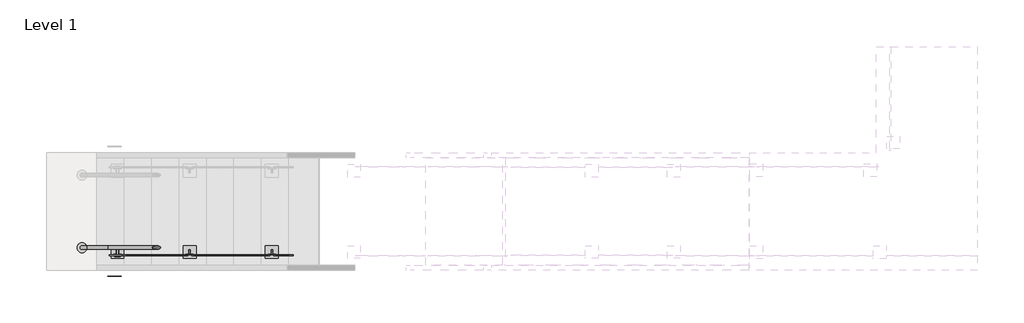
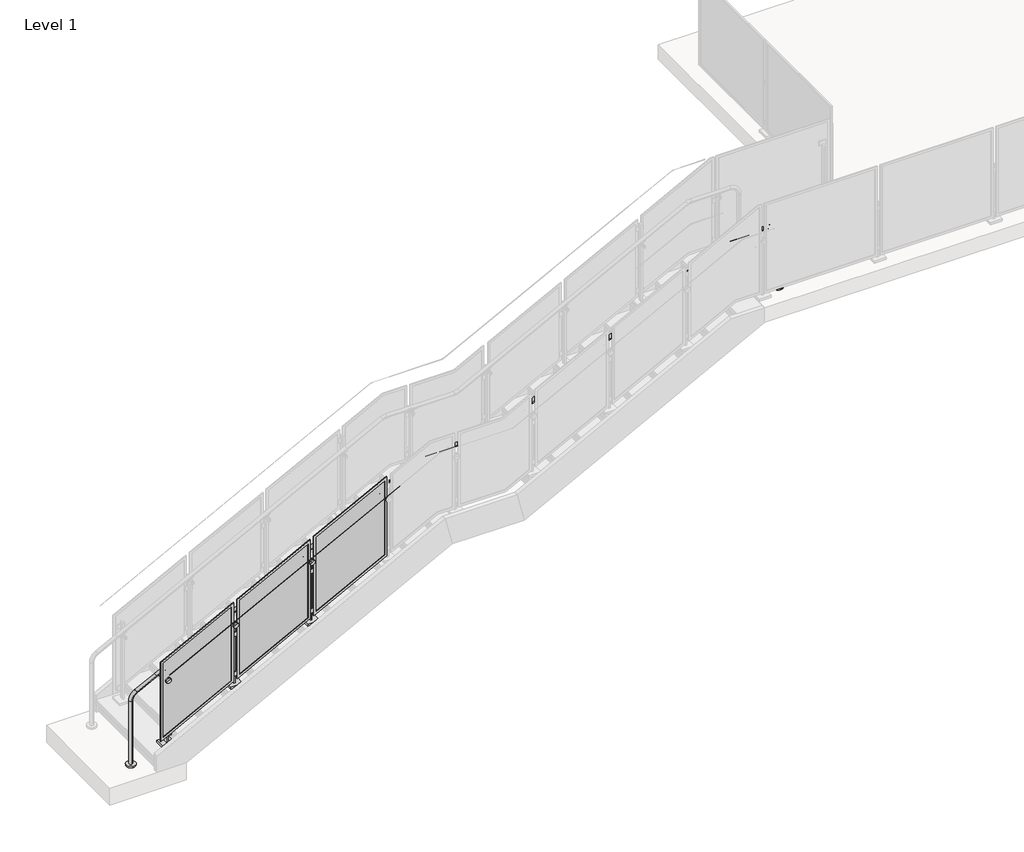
# One storey, part 10 of 28: 1 railing.
"""IFC4 building model written with IfcOpenShell, lengths in millimetres."""

from ifc_helpers import new_model, si_unit, point, frame, frame_2d, origin, place, context, project, spatial, polyline, circle_curve, ellipse_curve, trimmed, segment, composite_curve, outline, extrude, element, save
from ifc_brep_helpers import plane_surface, cylinder_surface, revolved_surface, advanced_brep

model = new_model("IFC4")

# Units and contexts
model_context = context("Model", 3, world=origin())
ifc_project = project(units=[si_unit("LENGTHUNIT", "METRE", prefix="MILLI")], contexts=[model_context])

# Site, building, storey
site = spatial("IfcSite", under=ifc_project)
building = spatial("IfcBuilding", under=site)
storey = spatial("IfcBuildingStorey", under=building, Name="Level 1", Elevation=0.0)

# Railing
placement = place(None, origin())
element("IfcRailing", 1, ObjectType="Metal-Panel-VIVA-STRUC-Slab-Top-Anchor-Stairs-Lower", at=placement, inside=storey, context=model_context, shape_type="SolidModel", body=[
    extrude(outline(composite_curve([segment(trimmed(circle_curve(frame_2d((-12073.0515794, -18372.2060387)), 50.8), [point((-12073.0515794, -18423.0060387))], [point((-12073.0515794, -18321.4060387))], False, "CARTESIAN"), True, "CONTINUOUS"), segment(trimmed(circle_curve(frame_2d((-12073.0515794, -18372.2060387)), 50.8), [point((-12073.0515794, -18321.4060387))], [point((-12073.0515794, -18423.0060387))], False, "CARTESIAN"), True, "CONTINUOUS")], self_intersect=False)), frame((0.0, 0.0, 3047.9164465), z_axis=(0.0, 0.0, 1.0), x_axis=(1.0, 0.0, 0.0)), (0.0, 0.0, 1.0), 19.05),
    extrude(outline(composite_curve([segment(trimmed(circle_curve(frame_2d((-19157.6813244, -18372.2060387)), 50.8), [point((-19157.6813244, -18321.4060387))], [point((-19157.6813244, -18423.0060387))], False, "CARTESIAN"), True, "CONTINUOUS"), segment(trimmed(circle_curve(frame_2d((-19157.6813244, -18372.2060387)), 50.8), [point((-19157.6813244, -18423.0060387))], [point((-19157.6813244, -18321.4060387))], False, "CARTESIAN"), True, "CONTINUOUS")], self_intersect=False)), frame((0.0, 0.0, -0.1113211), z_axis=(0.0, 0.0, 1.0), x_axis=(1.0, 0.0, 0.0)), (0.0, 0.0, 1.0), 19.05),
    advanced_brep(
    [(-19157.6813244, -18391.2560387, 18.9386789), (-19157.6813244, -18353.1560387, 18.9386789), (-19157.6813244, -18391.2560387, 743.6520958), (-19157.6813244, -18353.1560387, 743.6520958), (-19102.917891, -18353.1560387, 833.8124864), (-19102.917891, -18391.2560387, 833.8124864), (-18888.5494682, -18391.2560387, 945.172706), (-18888.5494682, -18353.1560387, 945.172706), (-16373.9494682, -18391.2560387, 2251.4584203), (-16373.9494682, -18353.1560387, 2251.4584203), (-15937.6556338, -18353.1560387, 2465.2134935), (-15937.6556338, -18391.2560387, 2465.2134935), (-15199.5082651, -18391.2560387, 2465.2134935), (-15199.5082651, -18353.1560387, 2465.2134935), (-15135.1079861, -18353.1560387, 2480.9429564), (-15135.1079861, -18391.2560387, 2480.9429564), (-12645.7274553, -18391.2560387, 3774.1276477), (-12645.7274553, -18353.1560387, 3774.1276477), (-15984.4922003, -18391.2560387, 2453.7738841), (-15984.4922003, -18353.1560387, 2453.7738841), (-12598.8908888, -18353.1560387, 3785.5672571), (-12598.8908888, -18391.2560387, 3785.5672571), (-12174.6515794, -18391.2560387, 3785.5672571), (-12174.6515794, -18353.1560387, 3785.5672571), (-12073.0515794, -18353.1560387, 3683.9672571), (-12073.0515794, -18391.2560387, 3683.9672571), (-12073.0515794, -18391.2560387, 3066.9664465), (-12073.0515794, -18353.1560387, 3066.9664465)],
    [
        (0, 1, circle_curve(frame((-19157.6813244, -18372.2060387, 18.9386789), z_axis=(0.0, 0.0, -1.0), x_axis=(0.0, 1.0, 0.0)), 19.05)),
        (1, 0, circle_curve(frame((-19157.6813244, -18372.2060387, 18.9386789), z_axis=(0.0, 0.0, -1.0), x_axis=(0.0, 1.0, 0.0)), 19.05)),
        (0, 2),
        (2, 3, circle_curve(frame((-19157.6813244, -18372.2060387, 743.6520958), z_axis=(0.0, 0.0, -1.0), x_axis=(0.0, 1.0, 0.0)), 19.05)),
        (3, 1),
        (3, 2, circle_curve(frame((-19157.6813244, -18372.2060387, 743.6520958), z_axis=(0.0, 0.0, -1.0), x_axis=(0.0, 1.0, 0.0)), 19.05)),
        (4, 3, circle_curve(frame((-19056.0813244, -18353.1560387, 743.6520958), z_axis=(0.0, -1.0, 0.0), x_axis=(-0.9999999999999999, 0.0, 0.0)), 101.6)),
        (2, 5, circle_curve(frame((-19056.0813244, -18391.2560387, 743.6520958), z_axis=(0.0, 1.0, 0.0), x_axis=(-0.9999999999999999, 0.0, 0.0)), 101.6)),
        (5, 4, circle_curve(frame((-19102.917891, -18372.2060387, 833.8124864), z_axis=(-0.8874054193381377, 0.0, -0.4609898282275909), x_axis=(0.0, 0.9999999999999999, 0.0)), 19.05)),
        (4, 5, circle_curve(frame((-19102.917891, -18372.2060387, 833.8124864), z_axis=(-0.8874054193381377, 0.0, -0.4609898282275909), x_axis=(0.0, 0.9999999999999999, 0.0)), 19.05)),
        (5, 6),
        (6, 7, circle_curve(frame((-18888.5494682, -18372.2060387, 945.172706), z_axis=(-0.8874054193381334, 0.0, -0.46098982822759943), x_axis=(0.0, 1.0, 0.0)), 19.05)),
        (7, 4),
        (7, 6, circle_curve(frame((-18888.5494682, -18372.2060387, 945.172706), z_axis=(-0.8874054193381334, 0.0, -0.46098982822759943), x_axis=(0.0, 1.0, 0.0)), 19.05)),
        (6, 8),
        (8, 9, circle_curve(frame((-16373.9494682, -18372.2060387, 2251.4584203), z_axis=(-0.8874054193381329, 0.0, -0.46098982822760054), x_axis=(0.0, 1.0, 0.0)), 19.05)),
        (9, 7),
        (9, 8, circle_curve(frame((-16373.9494682, -18372.2060387, 2251.4584203), z_axis=(-0.8874054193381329, 0.0, -0.46098982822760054), x_axis=(0.0, 1.0, 0.0)), 19.05)),
        (10, 11, circle_curve(frame((-15937.6556338, -18372.2060387, 2465.2134935), z_axis=(1.0, 0.0, 0.0), x_axis=(0.0, 1.0, 0.0)), 19.05)),
        (11, 12),
        (12, 13, circle_curve(frame((-15199.5082651, -18372.2060387, 2465.2134935), z_axis=(-1.0, 0.0, 0.0), x_axis=(0.0, 1.0, 0.0)), 19.05)),
        (13, 10),
        (11, 10, circle_curve(frame((-15937.6556338, -18372.2060387, 2465.2134935), z_axis=(1.0, 0.0, 0.0), x_axis=(0.0, 1.0, 0.0)), 19.05)),
        (13, 12, circle_curve(frame((-15199.5082651, -18372.2060387, 2465.2134935), z_axis=(-1.0, 0.0, 0.0), x_axis=(0.0, 1.0, 0.0)), 19.05)),
        (14, 15, circle_curve(frame((-15135.1079861, -18372.2060387, 2480.9429564), z_axis=(0.8874054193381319, 0.0, 0.4609898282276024), x_axis=(0.0, 1.0, 0.0)), 19.05)),
        (15, 16),
        (16, 17, circle_curve(frame((-12645.7274553, -18372.2060387, 3774.1276477), z_axis=(-0.8874054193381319, 0.0, -0.4609898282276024), x_axis=(0.0, 1.0, 0.0)), 19.05)),
        (17, 14),
        (15, 14, circle_curve(frame((-15135.1079861, -18372.2060387, 2480.9429564), z_axis=(0.8874054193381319, 0.0, 0.4609898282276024), x_axis=(0.0, 1.0, 0.0)), 19.05)),
        (17, 16, circle_curve(frame((-12645.7274553, -18372.2060387, 3774.1276477), z_axis=(-0.8874054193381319, 0.0, -0.4609898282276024), x_axis=(0.0, 1.0, 0.0)), 19.05)),
        (14, 13, circle_curve(frame((-15199.5082651, -18353.1560387, 2604.9134935), z_axis=(0.0, 1.0, 0.0), x_axis=(0.0, 0.0, -1.0)), 139.7)),
        (12, 15, circle_curve(frame((-15199.5082651, -18391.2560387, 2604.9134935), z_axis=(0.0, -1.0, 0.0), x_axis=(0.0, 0.0, -1.0)), 139.7)),
        (8, 18),
        (18, 19, circle_curve(frame((-15984.4922003, -18372.2060387, 2453.7738841), z_axis=(-0.8874054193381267, 0.0, -0.4609898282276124), x_axis=(0.0, 1.0, 0.0)), 19.05)),
        (19, 9),
        (19, 18, circle_curve(frame((-15984.4922003, -18372.2060387, 2453.7738841), z_axis=(-0.8874054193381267, 0.0, -0.4609898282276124), x_axis=(0.0, 1.0, 0.0)), 19.05)),
        (10, 19, circle_curve(frame((-15937.6556338, -18353.1560387, 2363.6134935), z_axis=(0.0, -1.0, 0.0), x_axis=(-0.4609898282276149, 0.0, 0.8874054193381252)), 101.6)),
        (18, 11, circle_curve(frame((-15937.6556338, -18391.2560387, 2363.6134935), z_axis=(0.0, 1.0, 0.0), x_axis=(-0.4609898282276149, 0.0, 0.8874054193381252)), 101.6)),
        (20, 17, circle_curve(frame((-12598.8908888, -18353.1560387, 3683.9672571), z_axis=(0.0, -1.0, 0.0), x_axis=(-0.4609898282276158, 0.0, 0.8874054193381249)), 101.6)),
        (16, 21, circle_curve(frame((-12598.8908888, -18391.2560387, 3683.9672571), z_axis=(0.0, 1.0, 0.0), x_axis=(-0.4609898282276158, 0.0, 0.8874054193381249)), 101.6)),
        (21, 20, circle_curve(frame((-12598.8908888, -18372.2060387, 3785.5672571), z_axis=(-0.9999999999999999, 0.0, 0.0), x_axis=(0.0, 1.0, 0.0)), 19.05)),
        (20, 21, circle_curve(frame((-12598.8908888, -18372.2060387, 3785.5672571), z_axis=(-1.0, 0.0, 0.0), x_axis=(0.0, 1.0, 0.0)), 19.05)),
        (21, 22),
        (22, 23, circle_curve(frame((-12174.6515794, -18372.2060387, 3785.5672571), z_axis=(-1.0, 0.0, 0.0), x_axis=(0.0, 1.0, 0.0)), 19.05)),
        (23, 20),
        (23, 22, circle_curve(frame((-12174.6515794, -18372.2060387, 3785.5672571), z_axis=(-1.0, 0.0, 0.0), x_axis=(0.0, 1.0, 0.0)), 19.05)),
        (24, 23, circle_curve(frame((-12174.6515794, -18353.1560387, 3683.9672571), z_axis=(0.0, -1.0, 0.0), x_axis=(0.0, 0.0, 1.0)), 101.6)),
        (22, 25, circle_curve(frame((-12174.6515794, -18391.2560387, 3683.9672571), z_axis=(0.0, 1.0, 0.0), x_axis=(0.0, 0.0, 1.0)), 101.6)),
        (25, 24, circle_curve(frame((-12073.0515794, -18372.2060387, 3683.9672571), z_axis=(0.0, 0.0, 1.0), x_axis=(0.0, 1.0, 0.0)), 19.05)),
        (24, 25, circle_curve(frame((-12073.0515794, -18372.2060387, 3683.9672571), z_axis=(0.0, 0.0, 1.0), x_axis=(0.0, 1.0, 0.0)), 19.05)),
        (26, 27, circle_curve(frame((-12073.0515794, -18372.2060387, 3066.9664465), z_axis=(0.0, 0.0, -1.0), x_axis=(0.0, 1.0, 0.0)), 19.05)),
        (27, 26, circle_curve(frame((-12073.0515794, -18372.2060387, 3066.9664465), z_axis=(0.0, 0.0, -1.0), x_axis=(0.0, 1.0, 0.0)), 19.05)),
        (25, 26),
        (27, 24),
    ],
    [
        plane_surface(frame((-19176.7313244, -18410.3060387, 18.9386789), z_axis=(0.0, 0.0, -1.0), x_axis=(1.0, 0.0, 0.0))),
        cylinder_surface(frame((-19157.6813244, -18372.2060387, 18.9386789), z_axis=(0.0, 0.0, -1.0), x_axis=(0.0, 1.0, 0.0)), 19.05),
        revolved_surface(trimmed(ellipse_curve(frame((-19157.6813244, -18372.2060387, 743.6520958), z_axis=(0.0, 0.0, -0.9999999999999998), x_axis=(0.0, 0.9999999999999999, 0.0)), 19.05, 19.05), [point((-19157.6813244, -18391.2560387, 743.6520958))], [point((-19157.6813244, -18353.1560387, 743.6520958))], True, "CARTESIAN"), (-19056.0813244, -18372.2060387, 743.6520958), (0.0, 0.9999999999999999, 0.0)),
        revolved_surface(trimmed(ellipse_curve(frame((-19157.6813244, -18372.2060387, 743.6520958), z_axis=(0.0, 0.0, -0.9999999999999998), x_axis=(0.0, 0.9999999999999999, 0.0)), 19.05, 19.05), [point((-19157.6813244, -18353.1560387, 743.6520958))], [point((-19157.6813244, -18391.2560387, 743.6520958))], True, "CARTESIAN"), (-19056.0813244, -18372.2060387, 743.6520958), (0.0, 0.9999999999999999, 0.0)),
        cylinder_surface(frame((-19102.917891, -18372.2060387, 833.8124864), z_axis=(-0.8874054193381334, 0.0, -0.46098982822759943), x_axis=(0.0, 1.0, 0.0)), 19.05),
        cylinder_surface(frame((-18888.5494682, -18372.2060387, 945.172706), z_axis=(-0.8874054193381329, 0.0, -0.46098982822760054), x_axis=(0.0, 1.0, 0.0)), 19.05),
        cylinder_surface(frame((-15937.6556338, -18372.2060387, 2465.2134935), z_axis=(-1.0, 0.0, 0.0), x_axis=(0.0, 1.0, 0.0)), 19.05),
        cylinder_surface(frame((-15135.1079861, -18372.2060387, 2480.9429564), z_axis=(-0.8874054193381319, 0.0, -0.4609898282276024), x_axis=(0.0, 1.0, 0.0)), 19.05),
        revolved_surface(trimmed(ellipse_curve(frame((-15199.5082651, -18372.2060387, 2465.2134935), z_axis=(-1.0, 0.0, 0.0), x_axis=(0.0, 1.0, 0.0)), 19.05, 19.05), [point((-15199.5082651, -18391.2560387, 2465.2134935))], [point((-15199.5082651, -18353.1560387, 2465.2134935))], True, "CARTESIAN"), (-15199.5082651, -18372.2060387, 2604.9134935), (0.0, -1.0, 0.0)),
        revolved_surface(trimmed(ellipse_curve(frame((-15199.5082651, -18372.2060387, 2465.2134935), z_axis=(-1.0, 0.0, 0.0), x_axis=(0.0, 1.0, 0.0)), 19.05, 19.05), [point((-15199.5082651, -18353.1560387, 2465.2134935))], [point((-15199.5082651, -18391.2560387, 2465.2134935))], True, "CARTESIAN"), (-15199.5082651, -18372.2060387, 2604.9134935), (0.0, -1.0, 0.0)),
        cylinder_surface(frame((-16373.9494682, -18372.2060387, 2251.4584203), z_axis=(-0.8874054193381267, 0.0, -0.4609898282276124), x_axis=(0.0, 1.0, 0.0)), 19.05),
        revolved_surface(trimmed(ellipse_curve(frame((-15984.4922003, -18372.2060387, 2453.7738841), z_axis=(-0.887405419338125, 0.0, -0.46098982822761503), x_axis=(0.0, 0.9999999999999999, 0.0)), 19.05, 19.05), [point((-15984.4922003, -18391.2560387, 2453.7738841))], [point((-15984.4922003, -18353.1560387, 2453.7738841))], True, "CARTESIAN"), (-15937.6556338, -18372.2060387, 2363.6134935), (0.0, 0.9999999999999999, 0.0)),
        revolved_surface(trimmed(ellipse_curve(frame((-15984.4922003, -18372.2060387, 2453.7738841), z_axis=(-0.887405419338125, 0.0, -0.46098982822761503), x_axis=(0.0, 0.9999999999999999, 0.0)), 19.05, 19.05), [point((-15984.4922003, -18353.1560387, 2453.7738841))], [point((-15984.4922003, -18391.2560387, 2453.7738841))], True, "CARTESIAN"), (-15937.6556338, -18372.2060387, 2363.6134935), (0.0, 0.9999999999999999, 0.0)),
        revolved_surface(trimmed(ellipse_curve(frame((-12645.7274553, -18372.2060387, 3774.1276477), z_axis=(-0.8874054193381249, 0.0, -0.4609898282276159), x_axis=(0.0, 1.0, 0.0)), 19.05, 19.05), [point((-12645.7274553, -18391.2560387, 3774.1276477))], [point((-12645.7274553, -18353.1560387, 3774.1276477))], True, "CARTESIAN"), (-12598.8908888, -18372.2060387, 3683.9672571), (0.0, 1.0, 0.0)),
        revolved_surface(trimmed(ellipse_curve(frame((-12645.7274553, -18372.2060387, 3774.1276477), z_axis=(-0.8874054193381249, 0.0, -0.4609898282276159), x_axis=(0.0, 1.0, 0.0)), 19.05, 19.05), [point((-12645.7274553, -18353.1560387, 3774.1276477))], [point((-12645.7274553, -18391.2560387, 3774.1276477))], True, "CARTESIAN"), (-12598.8908888, -18372.2060387, 3683.9672571), (0.0, 1.0, 0.0)),
        cylinder_surface(frame((-12598.8908888, -18372.2060387, 3785.5672571), z_axis=(-1.0, 0.0, 0.0), x_axis=(0.0, 1.0, 0.0)), 19.05),
        revolved_surface(trimmed(ellipse_curve(frame((-12174.6515794, -18372.2060387, 3785.5672571), z_axis=(-1.0, 0.0, 0.0), x_axis=(0.0, 1.0, 0.0)), 19.05, 19.05), [point((-12174.6515794, -18391.2560387, 3785.5672571))], [point((-12174.6515794, -18353.1560387, 3785.5672571))], True, "CARTESIAN"), (-12174.6515794, -18372.2060387, 3683.9672571), (0.0, 1.0, 0.0)),
        revolved_surface(trimmed(ellipse_curve(frame((-12174.6515794, -18372.2060387, 3785.5672571), z_axis=(-1.0, 0.0, 0.0), x_axis=(0.0, 1.0, 0.0)), 19.05, 19.05), [point((-12174.6515794, -18353.1560387, 3785.5672571))], [point((-12174.6515794, -18391.2560387, 3785.5672571))], True, "CARTESIAN"), (-12174.6515794, -18372.2060387, 3683.9672571), (0.0, 1.0, 0.0)),
        plane_surface(frame((-12054.0015794, -18410.3060387, 3066.9664465), z_axis=(0.0, 0.0, -1.0), x_axis=(-1.0, 0.0, 0.0))),
        cylinder_surface(frame((-12073.0515794, -18372.2060387, 3683.9672571), z_axis=(0.0, 0.0, 1.0), x_axis=(0.0, 1.0, 0.0)), 19.05),
    ],
    [
        (0, [[1, 2]]),
        (1, [[-1, 3, 4, 5]]),
        (1, [[-2, -5, 6, -3]]),
        (2, [[7, -4, 8, 9]]),
        (3, [[-8, -6, -7, 10]]),
        (4, [[-9, 11, 12, 13]]),
        (4, [[-10, -13, 14, -11]]),
        (5, [[-12, 15, 16, 17]]),
        (5, [[-14, -17, 18, -15]]),
        (6, [[19, 20, 21, 22]]),
        (6, [[23, -22, 24, -20]]),
        (7, [[25, 26, 27, 28]]),
        (7, [[29, -28, 30, -26]]),
        (8, [[31, -21, 32, -25]]),
        (9, [[-32, -24, -31, -29]]),
        (10, [[-16, 33, 34, 35]]),
        (10, [[-18, -35, 36, -33]]),
        (11, [[37, -34, 38, -19]]),
        (12, [[-38, -36, -37, -23]]),
        (13, [[39, -27, 40, 41]]),
        (14, [[-40, -30, -39, 42]]),
        (15, [[-41, 43, 44, 45]]),
        (15, [[-42, -45, 46, -43]]),
        (16, [[47, -44, 48, 49]]),
        (17, [[-48, -46, -47, 50]]),
        (18, [[51, 52]]),
        (19, [[-49, 53, -52, 54]]),
        (19, [[-50, -54, -51, -53]]),
    ],
),
    advanced_brep(
    [(-18897.3313244, -18664.9554387, 1127.7573389), (-18897.3313244, -18663.9554387, 1127.7573389), (-16382.7313244, -18664.9554387, 2434.0430532), (-16382.7313244, -18663.9554387, 2434.0430532)],
    [
        (0, 1, ellipse_curve(frame((-18897.3313244, -18664.4554387, 1127.7573389), z_axis=(-1.0, 0.0, 0.0), x_axis=(0.0, 0.0, -0.9999999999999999)), 0.5634403, 0.5)),
        (1, 0, ellipse_curve(frame((-18897.3313244, -18664.4554387, 1127.7573389), z_axis=(-1.0, 0.0, 0.0), x_axis=(0.0, 0.0, -0.9999999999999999)), 0.5634403, 0.5)),
        (2, 3, ellipse_curve(frame((-16382.7313244, -18664.4554387, 2434.0430532), z_axis=(1.0, 0.0, 0.0), x_axis=(0.0, 0.0, -0.9999999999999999)), 0.5634403, 0.5)),
        (3, 2, ellipse_curve(frame((-16382.7313244, -18664.4554387, 2434.0430532), z_axis=(1.0, 0.0, 0.0), x_axis=(0.0, 0.0, -0.9999999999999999)), 0.5634403, 0.5)),
        (0, 2),
        (3, 1),
    ],
    [
        plane_surface(frame((-18897.3313244, -18664.4554387, 1128.3207792), z_axis=(-1.0, 0.0, 0.0), x_axis=(0.0, 1.0, 0.0))),
        plane_surface(frame((-16382.7313244, -18664.4554387, 2434.6064935), z_axis=(1.0, 0.0, 0.0), x_axis=(0.0, 1.0, 0.0))),
        cylinder_surface(frame((-18897.1008295, -18664.4554387, 1127.8770765), z_axis=(-0.8874054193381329, 0.0, -0.46098982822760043), x_axis=(0.0, 1.0, 0.0)), 0.5),
    ],
    [
        (0, [[1, 2]]),
        (1, [[3, 4]]),
        (2, [[-1, 5, -4, 6]]),
        (2, [[-2, -6, -3, -5]]),
    ],
),
    extrude(outline(polyline([(1991.198934, -17176.4853675), (1137.4121771, -17176.4853675), (1526.663131, -16427.1772814), (2380.4498878, -16427.1772814), (1991.198934, -17176.4853675)])), frame((0.0, -18449.8044387, 0.0), z_axis=(0.0, 1.0, 0.0), x_axis=(0.0, 0.0, 1.0)), (0.0, 0.0, 1.0), 3.0),
    extrude(outline(polyline([(1095.5946033, -17201.8853675), (1511.2351675, -16401.7772814), (2422.2674616, -16401.7772814), (2006.6268974, -17201.8853675), (1095.5946033, -17201.8853675)]), holes=[polyline([(1991.198934, -17176.4853675), (2380.4498878, -16427.1772814), (1526.663131, -16427.1772814), (1137.4121771, -17176.4853675), (1991.198934, -17176.4853675)])]), frame((0.0, -18456.3294387, 0.0), z_axis=(0.0, 1.0, 0.0), x_axis=(0.0, 0.0, 1.0)), (0.0, 0.0, 1.0), 9.525),
    extrude(outline(polyline([(-17259.0320437, -18439.3382387), (-17182.8306052, -18439.3382387), (-17182.8306052, -18446.4502387), (-17259.0320437, -18446.4502387), (-17259.0320437, -18439.3382387)])), frame((0.0, 0.0, 1585.976), z_axis=(0.0, 0.0, 1.0), x_axis=(1.0, 0.0, 0.0)), (0.0, 0.0, 1.0), 50.8),
    extrude(outline(polyline([(-17259.0320437, -18439.3382387), (-17182.8306052, -18439.3382387), (-17182.8306052, -18446.4502387), (-17259.0320437, -18446.4502387), (-17259.0320437, -18439.3382387)])), frame((0.0, 0.0, 1128.776), z_axis=(0.0, 0.0, 1.0), x_axis=(1.0, 0.0, 0.0)), (0.0, 0.0, 1.0), 50.8),
    extrude(outline(composite_curve([segment(polyline([(2.9997401, 0.0), (0.0, 0.0)]), True, "CONTINUOUS"), segment(trimmed(circle_curve(frame_2d((-19.0451471, 0.0)), 19.0451471), [point((0.0, 0.0))], [point((-23.6280664, 18.4855208))], True, "CARTESIAN"), True, "CONTINUOUS"), segment(polyline([(-23.6280664, 18.4855208), (-24.3499072, 21.3971159)]), True, "CONTINUOUS"), segment(trimmed(circle_curve(frame_2d((-19.0451471, 0.0)), 22.0448871), [point((-24.3499072, 21.3971159))], [point((2.9997401, 0.0))], False, "CARTESIAN"), True, "CONTINUOUS")], self_intersect=False)), frame((-17283.4190349, -18385.2502387, 1757.5297189), z_axis=(0.8874054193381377, 0.0, 0.46098982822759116), x_axis=(0.28405456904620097, -0.7876022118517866, -0.5468050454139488)), (0.0, 0.0, 1.0), 79.1184357),
    advanced_brep(
    [(-17208.5341468, -18370.2502387, 1699.1899551), (-17208.5341468, -18377.3939887, 1699.1899551), (-17208.5341468, -18363.1064887, 1699.1899551), (-17244.3933931, -18377.3939887, 1768.2190042), (-17244.3933931, -18370.2502387, 1768.2190042), (-17244.3933931, -18363.1064887, 1768.2190042)],
    [
        (0, 1),
        (1, 2, circle_curve(frame((-17208.5341468, -18370.2502387, 1699.1899551), z_axis=(0.46098982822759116, 0.0, -0.8874054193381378), x_axis=(0.0, 1.0, 0.0)), 7.14375)),
        (2, 0),
        (3, 4),
        (4, 5),
        (5, 3, circle_curve(frame((-17244.3933931, -18370.2502387, 1768.2190042), z_axis=(-0.46098982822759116, 0.0, 0.8874054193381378), x_axis=(0.0, 1.0, 0.0)), 7.14375)),
        (2, 1, circle_curve(frame((-17208.5341468, -18370.2502387, 1699.1899551), z_axis=(0.46098982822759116, 0.0, -0.8874054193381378), x_axis=(0.0, 1.0, 0.0)), 7.14375)),
        (3, 5, circle_curve(frame((-17244.3933931, -18370.2502387, 1768.2190042), z_axis=(-0.46098982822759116, 0.0, 0.8874054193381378), x_axis=(0.0, 1.0, 0.0)), 7.14375)),
        (1, 3),
        (5, 2),
    ],
    [
        plane_surface(frame((-17208.5341468, -18370.2502387, 1699.1899551), z_axis=(0.46098982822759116, 0.0, -0.8874054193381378), x_axis=(0.0, 1.0, 0.0))),
        plane_surface(frame((-17244.3933931, -18370.2502387, 1768.2190042), z_axis=(-0.46098982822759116, 0.0, 0.8874054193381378), x_axis=(0.0, 1.0, 0.0))),
        cylinder_surface(frame((-17091.5799469, -18370.2502387, 1474.0531204), z_axis=(0.46098982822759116, 0.0, -0.8874054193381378), x_axis=(0.0, 1.0, 0.0)), 7.14375),
    ],
    [
        (0, [[1, 2, 3]]),
        (1, [[4, 5, 6]]),
        (0, [[-3, 7, -1]]),
        (1, [[-5, -4, 8]]),
        (2, [[9, -6, 10, -2]]),
        (2, [[-10, -8, -9, -7]]),
    ],
),
    advanced_brep(
    [(-17247.6976904, -18455.9752387, 1709.1499164), (-17226.5663488, -18455.9752387, 1720.1272367), (-17215.2963, -18455.9752387, 1725.9818075), (-17194.1649585, -18455.9752387, 1736.9591278), (-17247.6976904, -18463.9127387, 1709.1499164), (-17194.1649585, -18463.9127387, 1736.9591278), (-17247.6976904, -18438.5127387, 1709.1499164), (-17232.2013733, -18438.5127387, 1717.1999513), (-17209.6612756, -18438.5127387, 1728.9090929), (-17194.1649585, -18438.5127387, 1736.9591278), (-17247.6976904, -18446.4502387, 1709.1499164), (-17194.1649585, -18446.4502387, 1736.9591278), (-17220.9313244, -18463.9127387, 1723.0545221), (-17232.2013733, -18359.1377387, 1717.1999513), (-17220.9313244, -18359.1377387, 1723.0545221), (-17209.6612756, -18359.1377387, 1728.9090929), (-17226.5663488, -18446.4502387, 1720.1272367), (-17215.2963, -18446.4502387, 1725.9818075)],
    [
        (0, 1),
        (1, 2, circle_curve(frame((-17220.9313244, -18455.9752387, 1723.0545221), z_axis=(0.0, -1.0, 0.0), x_axis=(0.887405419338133, 0.0, 0.46098982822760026)), 6.35)),
        (2, 3),
        (3, 0, circle_curve(frame((-17220.9313244, -18455.9752387, 1723.0545221), z_axis=(0.0, 1.0, 0.0), x_axis=(0.887405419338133, 0.0, 0.46098982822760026)), 30.1625)),
        (4, 0),
        (3, 5),
        (5, 4, circle_curve(frame((-17220.9313244, -18463.9127387, 1723.0545221), z_axis=(0.0, 1.0, 0.0), x_axis=(0.887405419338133, 0.0, 0.46098982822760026)), 30.1625)),
        (6, 7),
        (7, 8, circle_curve(frame((-17220.9313244, -18438.5127387, 1723.0545221), z_axis=(0.0, -1.0, 0.0), x_axis=(0.887405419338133, 0.0, 0.46098982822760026)), 12.7)),
        (8, 9),
        (9, 6, circle_curve(frame((-17220.9313244, -18438.5127387, 1723.0545221), z_axis=(0.0, 1.0, 0.0), x_axis=(0.887405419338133, 0.0, 0.46098982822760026)), 30.1625)),
        (10, 6),
        (9, 11),
        (11, 10, circle_curve(frame((-17220.9313244, -18446.4502387, 1723.0545221), z_axis=(0.0, 1.0, 0.0), x_axis=(0.887405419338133, 0.0, 0.46098982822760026)), 30.1625)),
        (3, 0, circle_curve(frame((-17220.9313244, -18455.9752387, 1723.0545221), z_axis=(0.0, -1.0, 0.0), x_axis=(0.887405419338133, 0.0, 0.46098982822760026)), 30.1625)),
        (4, 5, circle_curve(frame((-17220.9313244, -18463.9127387, 1723.0545221), z_axis=(0.0, 1.0, 0.0), x_axis=(0.887405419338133, 0.0, 0.46098982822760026)), 30.1625)),
        (12, 4),
        (5, 12),
        (13, 14),
        (14, 15),
        (15, 13, circle_curve(frame((-17220.9313244, -18359.1377387, 1723.0545221), z_axis=(0.0, 1.0, 0.0), x_axis=(0.887405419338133, 0.0, 0.46098982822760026)), 12.7)),
        (13, 15, circle_curve(frame((-17220.9313244, -18359.1377387, 1723.0545221), z_axis=(0.0, 1.0, 0.0), x_axis=(0.887405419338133, 0.0, 0.46098982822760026)), 12.7)),
        (7, 13),
        (15, 8),
        (7, 8, circle_curve(frame((-17220.9313244, -18438.5127387, 1723.0545221), z_axis=(0.0, 1.0, 0.0), x_axis=(0.887405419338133, 0.0, 0.46098982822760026)), 12.7)),
        (6, 9, circle_curve(frame((-17220.9313244, -18438.5127387, 1723.0545221), z_axis=(0.0, 1.0, 0.0), x_axis=(0.887405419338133, 0.0, 0.46098982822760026)), 30.1625)),
        (10, 11, circle_curve(frame((-17220.9313244, -18446.4502387, 1723.0545221), z_axis=(0.0, 1.0, 0.0), x_axis=(0.887405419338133, 0.0, 0.46098982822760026)), 30.1625)),
        (16, 10),
        (11, 17),
        (17, 16, circle_curve(frame((-17220.9313244, -18446.4502387, 1723.0545221), z_axis=(0.0, 1.0, 0.0), x_axis=(0.887405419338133, 0.0, 0.46098982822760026)), 6.35)),
        (16, 17, circle_curve(frame((-17220.9313244, -18446.4502387, 1723.0545221), z_axis=(0.0, 1.0, 0.0), x_axis=(0.887405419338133, 0.0, 0.46098982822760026)), 6.35)),
        (1, 16),
        (17, 2),
        (1, 2, circle_curve(frame((-17220.9313244, -18455.9752387, 1723.0545221), z_axis=(0.0, 1.0, 0.0), x_axis=(0.887405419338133, 0.0, 0.46098982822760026)), 6.35)),
    ],
    [
        plane_surface(frame((-17220.9313244, -18455.9752387, 1723.0545221), z_axis=(0.0, 1.0, 0.0), x_axis=(0.887405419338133, 0.0, 0.46098982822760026))),
        cylinder_surface(frame((-17220.9313244, -19970.4502387, 1723.0545221), z_axis=(0.0, -1.0, 0.0), x_axis=(0.887405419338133, 0.0, 0.46098982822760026)), 30.1625),
        plane_surface(frame((-17220.9313244, -18438.5127387, 1723.0545221), z_axis=(0.0, 1.0, 0.0), x_axis=(0.887405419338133, 0.0, 0.46098982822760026))),
        plane_surface(frame((-17220.9313244, -18463.9127387, 1723.0545221), z_axis=(0.0, -1.0, 0.0), x_axis=(0.887405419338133, 0.0, 0.46098982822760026))),
        plane_surface(frame((-17220.9313244, -18359.1377387, 1723.0545221), z_axis=(0.0, 1.0, 0.0), x_axis=(0.887405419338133, 0.0, 0.46098982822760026))),
        cylinder_surface(frame((-17220.9313244, -19970.4502387, 1723.0545221), z_axis=(0.0, -1.0, 0.0), x_axis=(0.887405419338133, 0.0, 0.46098982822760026)), 12.7),
        plane_surface(frame((-17220.9313244, -18446.4502387, 1723.0545221), z_axis=(0.0, -1.0, 0.0), x_axis=(0.887405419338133, 0.0, 0.46098982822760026))),
        cylinder_surface(frame((-17220.9313244, -19970.4502387, 1723.0545221), z_axis=(0.0, -1.0, 0.0), x_axis=(0.887405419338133, 0.0, 0.46098982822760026)), 6.35),
    ],
    [
        (0, [[1, 2, 3, 4]]),
        (1, [[5, -4, 6, 7]]),
        (2, [[8, 9, 10, 11]]),
        (1, [[12, -11, 13, 14]]),
        (1, [[-6, 15, -5, 16]]),
        (3, [[17, -7, 18]]),
        (3, [[-18, -16, -17]]),
        (4, [[19, 20, 21]]),
        (4, [[-20, -19, 22]]),
        (5, [[23, -21, 24, -9]]),
        (5, [[-24, -22, -23, 25]]),
        (2, [[-10, -25, -8, 26]]),
        (1, [[-13, -26, -12, 27]]),
        (6, [[28, -14, 29, 30]]),
        (6, [[-29, -27, -28, 31]]),
        (7, [[32, -30, 33, -2]]),
        (7, [[-33, -31, -32, 34]]),
        (0, [[-3, -34, -1, -15]]),
    ],
),
    extrude(outline(polyline([(-17286.8189244, -18351.2256387), (-17155.0437244, -18351.2256387), (-17155.0437244, -18483.0008387), (-17286.8189244, -18483.0008387), (-17286.8189244, -18351.2256387)])), frame((0.0, 0.0, 1016.0), z_axis=(0.0, 0.0, 1.0), x_axis=(1.0, 0.0, 0.0)), (0.0, 0.0, 1.0), 25.4),
    extrude(outline(polyline([(-17228.8709161, -18394.8882387), (-17212.9917328, -18394.8882387), (-17212.9917328, -18439.3382387), (-17228.8709161, -18439.3382387), (-17228.8709161, -18394.8882387)])), frame((0.0, 0.0, 1016.0), z_axis=(0.0, 0.0, 1.0), x_axis=(1.0, 0.0, 0.0)), (0.0, 0.0, 1.0), 660.4),
    extrude(outline(polyline([(1555.7703626, -18014.6853675), (701.9836057, -18014.6853675), (1091.2345595, -17265.3772814), (1945.0213164, -17265.3772814), (1555.7703626, -18014.6853675)])), frame((0.0, -18449.8044387, 0.0), z_axis=(0.0, 1.0, 0.0), x_axis=(0.0, 0.0, 1.0)), (0.0, 0.0, 1.0), 3.0),
    extrude(outline(polyline([(660.1660319, -18040.0853675), (1075.8065961, -17239.9772814), (1986.8388902, -17239.9772814), (1571.198326, -18040.0853675), (660.1660319, -18040.0853675)]), holes=[polyline([(1555.7703626, -18014.6853675), (1945.0213164, -17265.3772814), (1091.2345595, -17265.3772814), (701.9836057, -18014.6853675), (1555.7703626, -18014.6853675)])]), frame((0.0, -18456.3294387, 0.0), z_axis=(0.0, 1.0, 0.0), x_axis=(0.0, 0.0, 1.0)), (0.0, 0.0, 1.0), 9.525),
    extrude(outline(polyline([(-18097.2320437, -18439.3382387), (-18021.0306052, -18439.3382387), (-18021.0306052, -18446.4502387), (-18097.2320437, -18446.4502387), (-18097.2320437, -18439.3382387)])), frame((0.0, 0.0, 1150.5474286), z_axis=(0.0, 0.0, 1.0), x_axis=(1.0, 0.0, 0.0)), (0.0, 0.0, 1.0), 50.8),
    extrude(outline(polyline([(-18097.2320437, -18439.3382387), (-18021.0306052, -18439.3382387), (-18021.0306052, -18446.4502387), (-18097.2320437, -18446.4502387), (-18097.2320437, -18439.3382387)])), frame((0.0, 0.0, 693.3474286), z_axis=(0.0, 0.0, 1.0), x_axis=(1.0, 0.0, 0.0)), (0.0, 0.0, 1.0), 50.8),
    extrude(outline(composite_curve([segment(polyline([(2.9997401, 0.0), (0.0, 0.0)]), True, "CONTINUOUS"), segment(trimmed(circle_curve(frame_2d((-19.0451471, 0.0)), 19.0451471), [point((0.0, 0.0))], [point((-23.6280664, 18.4855208))], True, "CARTESIAN"), True, "CONTINUOUS"), segment(polyline([(-23.6280664, 18.4855208), (-24.3499072, 21.3971159)]), True, "CONTINUOUS"), segment(trimmed(circle_curve(frame_2d((-19.0451471, 0.0)), 22.0448871), [point((-24.3499072, 21.3971159))], [point((2.9997401, 0.0))], False, "CARTESIAN"), True, "CONTINUOUS")], self_intersect=False)), frame((-18121.6190349, -18385.2502387, 1322.1011475), z_axis=(0.8874054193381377, 0.0, 0.46098982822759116), x_axis=(0.28405456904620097, -0.7876022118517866, -0.5468050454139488)), (0.0, 0.0, 1.0), 79.1184357),
    advanced_brep(
    [(-18046.7341468, -18370.2502387, 1263.7613837), (-18046.7341468, -18377.3939887, 1263.7613837), (-18046.7341468, -18363.1064887, 1263.7613837), (-18082.5933931, -18377.3939887, 1332.7904328), (-18082.5933931, -18370.2502387, 1332.7904328), (-18082.5933931, -18363.1064887, 1332.7904328)],
    [
        (0, 1),
        (1, 2, circle_curve(frame((-18046.7341468, -18370.2502387, 1263.7613837), z_axis=(0.46098982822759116, 0.0, -0.8874054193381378), x_axis=(0.0, 1.0, 0.0)), 7.14375)),
        (2, 0),
        (3, 4),
        (4, 5),
        (5, 3, circle_curve(frame((-18082.5933931, -18370.2502387, 1332.7904328), z_axis=(-0.46098982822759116, 0.0, 0.8874054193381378), x_axis=(0.0, 1.0, 0.0)), 7.14375)),
        (2, 1, circle_curve(frame((-18046.7341468, -18370.2502387, 1263.7613837), z_axis=(0.46098982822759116, 0.0, -0.8874054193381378), x_axis=(0.0, 1.0, 0.0)), 7.14375)),
        (3, 5, circle_curve(frame((-18082.5933931, -18370.2502387, 1332.7904328), z_axis=(-0.46098982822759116, 0.0, 0.8874054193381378), x_axis=(0.0, 1.0, 0.0)), 7.14375)),
        (1, 3),
        (5, 2),
    ],
    [
        plane_surface(frame((-18046.7341468, -18370.2502387, 1263.7613837), z_axis=(0.46098982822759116, 0.0, -0.8874054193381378), x_axis=(0.0, 1.0, 0.0))),
        plane_surface(frame((-18082.5933931, -18370.2502387, 1332.7904328), z_axis=(-0.46098982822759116, 0.0, 0.8874054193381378), x_axis=(0.0, 1.0, 0.0))),
        cylinder_surface(frame((-17929.7799469, -18370.2502387, 1038.624549), z_axis=(0.46098982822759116, 0.0, -0.8874054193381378), x_axis=(0.0, 1.0, 0.0)), 7.14375),
    ],
    [
        (0, [[1, 2, 3]]),
        (1, [[4, 5, 6]]),
        (0, [[-3, 7, -1]]),
        (1, [[-5, -4, 8]]),
        (2, [[9, -6, 10, -2]]),
        (2, [[-10, -8, -9, -7]]),
    ],
),
    advanced_brep(
    [(-18085.8976904, -18455.9752387, 1273.721345), (-18064.7663488, -18455.9752387, 1284.6986652), (-18053.4963, -18455.9752387, 1290.5532361), (-18032.3649585, -18455.9752387, 1301.5305563), (-18085.8976904, -18463.9127387, 1273.721345), (-18032.3649585, -18463.9127387, 1301.5305563), (-18085.8976904, -18438.5127387, 1273.721345), (-18070.4013733, -18438.5127387, 1281.7713798), (-18047.8612756, -18438.5127387, 1293.4805215), (-18032.3649585, -18438.5127387, 1301.5305563), (-18085.8976904, -18446.4502387, 1273.721345), (-18032.3649585, -18446.4502387, 1301.5305563), (-18059.1313244, -18463.9127387, 1287.6259506), (-18070.4013733, -18359.1377387, 1281.7713798), (-18059.1313244, -18359.1377387, 1287.6259506), (-18047.8612756, -18359.1377387, 1293.4805215), (-18064.7663488, -18446.4502387, 1284.6986652), (-18053.4963, -18446.4502387, 1290.5532361)],
    [
        (0, 1),
        (1, 2, circle_curve(frame((-18059.1313244, -18455.9752387, 1287.6259506), z_axis=(0.0, -1.0, 0.0), x_axis=(0.887405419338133, 0.0, 0.46098982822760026)), 6.35)),
        (2, 3),
        (3, 0, circle_curve(frame((-18059.1313244, -18455.9752387, 1287.6259506), z_axis=(0.0, 1.0, 0.0), x_axis=(0.887405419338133, 0.0, 0.46098982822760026)), 30.1625)),
        (4, 0),
        (3, 5),
        (5, 4, circle_curve(frame((-18059.1313244, -18463.9127387, 1287.6259506), z_axis=(0.0, 1.0, 0.0), x_axis=(0.887405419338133, 0.0, 0.46098982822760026)), 30.1625)),
        (6, 7),
        (7, 8, circle_curve(frame((-18059.1313244, -18438.5127387, 1287.6259506), z_axis=(0.0, -1.0, 0.0), x_axis=(0.887405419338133, 0.0, 0.46098982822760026)), 12.7)),
        (8, 9),
        (9, 6, circle_curve(frame((-18059.1313244, -18438.5127387, 1287.6259506), z_axis=(0.0, 1.0, 0.0), x_axis=(0.887405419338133, 0.0, 0.46098982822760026)), 30.1625)),
        (10, 6),
        (9, 11),
        (11, 10, circle_curve(frame((-18059.1313244, -18446.4502387, 1287.6259506), z_axis=(0.0, 1.0, 0.0), x_axis=(0.887405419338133, 0.0, 0.46098982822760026)), 30.1625)),
        (3, 0, circle_curve(frame((-18059.1313244, -18455.9752387, 1287.6259506), z_axis=(0.0, -1.0, 0.0), x_axis=(0.887405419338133, 0.0, 0.46098982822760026)), 30.1625)),
        (4, 5, circle_curve(frame((-18059.1313244, -18463.9127387, 1287.6259506), z_axis=(0.0, 1.0, 0.0), x_axis=(0.887405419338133, 0.0, 0.46098982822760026)), 30.1625)),
        (12, 4),
        (5, 12),
        (13, 14),
        (14, 15),
        (15, 13, circle_curve(frame((-18059.1313244, -18359.1377387, 1287.6259506), z_axis=(0.0, 1.0, 0.0), x_axis=(0.887405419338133, 0.0, 0.46098982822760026)), 12.7)),
        (13, 15, circle_curve(frame((-18059.1313244, -18359.1377387, 1287.6259506), z_axis=(0.0, 1.0, 0.0), x_axis=(0.887405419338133, 0.0, 0.46098982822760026)), 12.7)),
        (7, 13),
        (15, 8),
        (7, 8, circle_curve(frame((-18059.1313244, -18438.5127387, 1287.6259506), z_axis=(0.0, 1.0, 0.0), x_axis=(0.887405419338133, 0.0, 0.46098982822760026)), 12.7)),
        (6, 9, circle_curve(frame((-18059.1313244, -18438.5127387, 1287.6259506), z_axis=(0.0, 1.0, 0.0), x_axis=(0.887405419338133, 0.0, 0.46098982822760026)), 30.1625)),
        (10, 11, circle_curve(frame((-18059.1313244, -18446.4502387, 1287.6259506), z_axis=(0.0, 1.0, 0.0), x_axis=(0.887405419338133, 0.0, 0.46098982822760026)), 30.1625)),
        (16, 10),
        (11, 17),
        (17, 16, circle_curve(frame((-18059.1313244, -18446.4502387, 1287.6259506), z_axis=(0.0, 1.0, 0.0), x_axis=(0.887405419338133, 0.0, 0.46098982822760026)), 6.35)),
        (16, 17, circle_curve(frame((-18059.1313244, -18446.4502387, 1287.6259506), z_axis=(0.0, 1.0, 0.0), x_axis=(0.887405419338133, 0.0, 0.46098982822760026)), 6.35)),
        (1, 16),
        (17, 2),
        (1, 2, circle_curve(frame((-18059.1313244, -18455.9752387, 1287.6259506), z_axis=(0.0, 1.0, 0.0), x_axis=(0.887405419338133, 0.0, 0.46098982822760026)), 6.35)),
    ],
    [
        plane_surface(frame((-18059.1313244, -18455.9752387, 1287.6259506), z_axis=(0.0, 1.0, 0.0), x_axis=(0.887405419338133, 0.0, 0.46098982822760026))),
        cylinder_surface(frame((-18059.1313244, -19970.4502387, 1287.6259506), z_axis=(0.0, -1.0, 0.0), x_axis=(0.887405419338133, 0.0, 0.46098982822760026)), 30.1625),
        plane_surface(frame((-18059.1313244, -18438.5127387, 1287.6259506), z_axis=(0.0, 1.0, 0.0), x_axis=(0.887405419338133, 0.0, 0.46098982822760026))),
        plane_surface(frame((-18059.1313244, -18463.9127387, 1287.6259506), z_axis=(0.0, -1.0, 0.0), x_axis=(0.887405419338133, 0.0, 0.46098982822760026))),
        plane_surface(frame((-18059.1313244, -18359.1377387, 1287.6259506), z_axis=(0.0, 1.0, 0.0), x_axis=(0.887405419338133, 0.0, 0.46098982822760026))),
        cylinder_surface(frame((-18059.1313244, -19970.4502387, 1287.6259506), z_axis=(0.0, -1.0, 0.0), x_axis=(0.887405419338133, 0.0, 0.46098982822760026)), 12.7),
        plane_surface(frame((-18059.1313244, -18446.4502387, 1287.6259506), z_axis=(0.0, -1.0, 0.0), x_axis=(0.887405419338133, 0.0, 0.46098982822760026))),
        cylinder_surface(frame((-18059.1313244, -19970.4502387, 1287.6259506), z_axis=(0.0, -1.0, 0.0), x_axis=(0.887405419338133, 0.0, 0.46098982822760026)), 6.35),
    ],
    [
        (0, [[1, 2, 3, 4]]),
        (1, [[5, -4, 6, 7]]),
        (2, [[8, 9, 10, 11]]),
        (1, [[12, -11, 13, 14]]),
        (1, [[-6, 15, -5, 16]]),
        (3, [[17, -7, 18]]),
        (3, [[-18, -16, -17]]),
        (4, [[19, 20, 21]]),
        (4, [[-20, -19, 22]]),
        (5, [[23, -21, 24, -9]]),
        (5, [[-24, -22, -23, 25]]),
        (2, [[-10, -25, -8, 26]]),
        (1, [[-13, -26, -12, 27]]),
        (6, [[28, -14, 29, 30]]),
        (6, [[-29, -27, -28, 31]]),
        (7, [[32, -30, 33, -2]]),
        (7, [[-33, -31, -32, 34]]),
        (0, [[-3, -34, -1, -15]]),
    ],
),
    extrude(outline(polyline([(-18125.0189244, -18351.2256387), (-17993.2437244, -18351.2256387), (-17993.2437244, -18483.0008387), (-18125.0189244, -18483.0008387), (-18125.0189244, -18351.2256387)])), frame((0.0, 0.0, 580.5714286), z_axis=(0.0, 0.0, 1.0), x_axis=(1.0, 0.0, 0.0)), (0.0, 0.0, 1.0), 25.4),
    extrude(outline(polyline([(-18067.0709161, -18394.8882387), (-18051.1917328, -18394.8882387), (-18051.1917328, -18439.3382387), (-18067.0709161, -18439.3382387), (-18067.0709161, -18394.8882387)])), frame((0.0, 0.0, 580.5714286), z_axis=(0.0, 0.0, 1.0), x_axis=(1.0, 0.0, 0.0)), (0.0, 0.0, 1.0), 660.4),
    extrude(outline(polyline([(1120.3417911, -18852.8853675), (266.5550343, -18852.8853675), (655.8059881, -18103.5772814), (1509.592745, -18103.5772814), (1120.3417911, -18852.8853675)])), frame((0.0, -18449.8044387, 0.0), z_axis=(0.0, 1.0, 0.0), x_axis=(0.0, 0.0, 1.0)), (0.0, 0.0, 1.0), 3.0),
    extrude(outline(polyline([(224.7374604, -18878.2853675), (640.3780247, -18078.1772814), (1551.4103188, -18078.1772814), (1135.7697546, -18878.2853675), (224.7374604, -18878.2853675)]), holes=[polyline([(1120.3417911, -18852.8853675), (1509.592745, -18103.5772814), (655.8059881, -18103.5772814), (266.5550343, -18852.8853675), (1120.3417911, -18852.8853675)])]), frame((0.0, -18456.3294387, 0.0), z_axis=(0.0, 1.0, 0.0), x_axis=(0.0, 0.0, 1.0)), (0.0, 0.0, 1.0), 9.525),
    extrude(outline(polyline([(-18833.8320437, -18439.3382387), (-18757.6306052, -18439.3382387), (-18757.6306052, -18446.4502387), (-18833.8320437, -18446.4502387), (-18833.8320437, -18439.3382387)])), frame((0.0, 0.0, 969.1188571), z_axis=(0.0, 0.0, 1.0), x_axis=(1.0, 0.0, 0.0)), (0.0, 0.0, 1.0), 50.8),
    extrude(outline(polyline([(-18833.8320437, -18439.3382387), (-18757.6306052, -18439.3382387), (-18757.6306052, -18446.4502387), (-18833.8320437, -18446.4502387), (-18833.8320437, -18439.3382387)])), frame((0.0, 0.0, 257.9188571), z_axis=(0.0, 0.0, 1.0), x_axis=(1.0, 0.0, 0.0)), (0.0, 0.0, 1.0), 50.8),
    extrude(outline(composite_curve([segment(polyline([(2.99974, -1e-07), (0.0, 0.0)]), True, "CONTINUOUS"), segment(trimmed(circle_curve(frame_2d((-19.0451472, -1e-07)), 19.0451471), [point((0.0, 0.0))], [point((-23.6280664, 18.4855208))], True, "CARTESIAN"), True, "CONTINUOUS"), segment(polyline([(-23.6280664, 18.4855208), (-24.3499072, 21.3971158)]), True, "CONTINUOUS"), segment(trimmed(circle_curve(frame_2d((-19.0451472, -1e-07)), 22.0448871), [point((-24.3499072, 21.3971158))], [point((2.99974, -1e-07))], False, "CARTESIAN"), True, "CONTINUOUS")], self_intersect=False)), frame((-18858.2190349, -18385.2502387, 939.4517968), z_axis=(0.8874054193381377, 0.0, 0.46098982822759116), x_axis=(0.28405456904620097, -0.7876022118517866, -0.5468050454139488)), (0.0, 0.0, 1.0), 79.1184357),
    advanced_brep(
    [(-18783.3341468, -18370.2502387, 881.1120331), (-18783.3341468, -18377.3939887, 881.1120331), (-18783.3341468, -18363.1064887, 881.1120331), (-18819.1933931, -18377.3939887, 950.1410821), (-18819.1933931, -18370.2502387, 950.1410821), (-18819.1933931, -18363.1064887, 950.1410821)],
    [
        (0, 1),
        (1, 2, circle_curve(frame((-18783.3341468, -18370.2502387, 881.1120331), z_axis=(0.46098982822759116, 0.0, -0.8874054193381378), x_axis=(0.0, 1.0, 0.0)), 7.14375)),
        (2, 0),
        (3, 4),
        (4, 5),
        (5, 3, circle_curve(frame((-18819.1933931, -18370.2502387, 950.1410821), z_axis=(-0.46098982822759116, 0.0, 0.8874054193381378), x_axis=(0.0, 1.0, 0.0)), 7.14375)),
        (2, 1, circle_curve(frame((-18783.3341468, -18370.2502387, 881.1120331), z_axis=(0.46098982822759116, 0.0, -0.8874054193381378), x_axis=(0.0, 1.0, 0.0)), 7.14375)),
        (3, 5, circle_curve(frame((-18819.1933931, -18370.2502387, 950.1410821), z_axis=(-0.46098982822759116, 0.0, 0.8874054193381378), x_axis=(0.0, 1.0, 0.0)), 7.14375)),
        (1, 3),
        (5, 2),
    ],
    [
        plane_surface(frame((-18783.3341468, -18370.2502387, 881.1120331), z_axis=(0.46098982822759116, 0.0, -0.8874054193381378), x_axis=(0.0, 1.0, 0.0))),
        plane_surface(frame((-18819.1933931, -18370.2502387, 950.1410821), z_axis=(-0.46098982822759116, 0.0, 0.8874054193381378), x_axis=(0.0, 1.0, 0.0))),
        cylinder_surface(frame((-18666.3799469, -18370.2502387, 655.9751983), z_axis=(0.46098982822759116, 0.0, -0.8874054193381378), x_axis=(0.0, 1.0, 0.0)), 7.14375),
    ],
    [
        (0, [[1, 2, 3]]),
        (1, [[4, 5, 6]]),
        (0, [[-3, 7, -1]]),
        (1, [[-5, -4, 8]]),
        (2, [[9, -6, 10, -2]]),
        (2, [[-10, -8, -9, -7]]),
    ],
),
    advanced_brep(
    [(-18822.4976904, -18455.9752387, 891.0719943), (-18801.3663488, -18455.9752387, 902.0493146), (-18790.0963, -18455.9752387, 907.9038854), (-18768.9649585, -18455.9752387, 918.8812057), (-18822.4976904, -18463.9127387, 891.0719943), (-18768.9649585, -18463.9127387, 918.8812057), (-18822.4976904, -18438.5127387, 891.0719943), (-18807.0013733, -18438.5127387, 899.1220292), (-18784.4612756, -18438.5127387, 910.8311708), (-18768.9649585, -18438.5127387, 918.8812057), (-18822.4976904, -18446.4502387, 891.0719943), (-18768.9649585, -18446.4502387, 918.8812057), (-18795.7313244, -18463.9127387, 904.9766), (-18807.0013733, -18359.1377387, 899.1220292), (-18795.7313244, -18359.1377387, 904.9766), (-18784.4612756, -18359.1377387, 910.8311708), (-18801.3663488, -18446.4502387, 902.0493146), (-18790.0963, -18446.4502387, 907.9038854)],
    [
        (0, 1),
        (1, 2, circle_curve(frame((-18795.7313244, -18455.9752387, 904.9766), z_axis=(0.0, -1.0, 0.0), x_axis=(0.887405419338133, 0.0, 0.46098982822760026)), 6.35)),
        (2, 3),
        (3, 0, circle_curve(frame((-18795.7313244, -18455.9752387, 904.9766), z_axis=(0.0, 1.0, 0.0), x_axis=(0.887405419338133, 0.0, 0.46098982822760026)), 30.1625)),
        (4, 0),
        (3, 5),
        (5, 4, circle_curve(frame((-18795.7313244, -18463.9127387, 904.9766), z_axis=(0.0, 1.0, 0.0), x_axis=(0.887405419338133, 0.0, 0.46098982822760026)), 30.1625)),
        (6, 7),
        (7, 8, circle_curve(frame((-18795.7313244, -18438.5127387, 904.9766), z_axis=(0.0, -1.0, 0.0), x_axis=(0.887405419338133, 0.0, 0.46098982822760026)), 12.7)),
        (8, 9),
        (9, 6, circle_curve(frame((-18795.7313244, -18438.5127387, 904.9766), z_axis=(0.0, 1.0, 0.0), x_axis=(0.887405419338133, 0.0, 0.46098982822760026)), 30.1625)),
        (10, 6),
        (9, 11),
        (11, 10, circle_curve(frame((-18795.7313244, -18446.4502387, 904.9766), z_axis=(0.0, 1.0, 0.0), x_axis=(0.887405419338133, 0.0, 0.46098982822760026)), 30.1625)),
        (3, 0, circle_curve(frame((-18795.7313244, -18455.9752387, 904.9766), z_axis=(0.0, -1.0, 0.0), x_axis=(0.887405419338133, 0.0, 0.46098982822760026)), 30.1625)),
        (4, 5, circle_curve(frame((-18795.7313244, -18463.9127387, 904.9766), z_axis=(0.0, 1.0, 0.0), x_axis=(0.887405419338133, 0.0, 0.46098982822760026)), 30.1625)),
        (12, 4),
        (5, 12),
        (13, 14),
        (14, 15),
        (15, 13, circle_curve(frame((-18795.7313244, -18359.1377387, 904.9766), z_axis=(0.0, 1.0, 0.0), x_axis=(0.887405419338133, 0.0, 0.46098982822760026)), 12.7)),
        (13, 15, circle_curve(frame((-18795.7313244, -18359.1377387, 904.9766), z_axis=(0.0, 1.0, 0.0), x_axis=(0.887405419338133, 0.0, 0.46098982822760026)), 12.7)),
        (7, 13),
        (15, 8),
        (7, 8, circle_curve(frame((-18795.7313244, -18438.5127387, 904.9766), z_axis=(0.0, 1.0, 0.0), x_axis=(0.887405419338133, 0.0, 0.46098982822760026)), 12.7)),
        (6, 9, circle_curve(frame((-18795.7313244, -18438.5127387, 904.9766), z_axis=(0.0, 1.0, 0.0), x_axis=(0.887405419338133, 0.0, 0.46098982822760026)), 30.1625)),
        (10, 11, circle_curve(frame((-18795.7313244, -18446.4502387, 904.9766), z_axis=(0.0, 1.0, 0.0), x_axis=(0.887405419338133, 0.0, 0.46098982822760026)), 30.1625)),
        (16, 10),
        (11, 17),
        (17, 16, circle_curve(frame((-18795.7313244, -18446.4502387, 904.9766), z_axis=(0.0, 1.0, 0.0), x_axis=(0.887405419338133, 0.0, 0.46098982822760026)), 6.35)),
        (16, 17, circle_curve(frame((-18795.7313244, -18446.4502387, 904.9766), z_axis=(0.0, 1.0, 0.0), x_axis=(0.887405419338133, 0.0, 0.46098982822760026)), 6.35)),
        (1, 16),
        (17, 2),
        (1, 2, circle_curve(frame((-18795.7313244, -18455.9752387, 904.9766), z_axis=(0.0, 1.0, 0.0), x_axis=(0.887405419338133, 0.0, 0.46098982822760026)), 6.35)),
    ],
    [
        plane_surface(frame((-18795.7313244, -18455.9752387, 904.9766), z_axis=(0.0, 1.0, 0.0), x_axis=(0.887405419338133, 0.0, 0.46098982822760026))),
        cylinder_surface(frame((-18795.7313244, -19970.4502387, 904.9766), z_axis=(0.0, -1.0, 0.0), x_axis=(0.887405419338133, 0.0, 0.46098982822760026)), 30.1625),
        plane_surface(frame((-18795.7313244, -18438.5127387, 904.9766), z_axis=(0.0, 1.0, 0.0), x_axis=(0.887405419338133, 0.0, 0.46098982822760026))),
        plane_surface(frame((-18795.7313244, -18463.9127387, 904.9766), z_axis=(0.0, -1.0, 0.0), x_axis=(0.887405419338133, 0.0, 0.46098982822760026))),
        plane_surface(frame((-18795.7313244, -18359.1377387, 904.9766), z_axis=(0.0, 1.0, 0.0), x_axis=(0.887405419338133, 0.0, 0.46098982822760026))),
        cylinder_surface(frame((-18795.7313244, -19970.4502387, 904.9766), z_axis=(0.0, -1.0, 0.0), x_axis=(0.887405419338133, 0.0, 0.46098982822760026)), 12.7),
        plane_surface(frame((-18795.7313244, -18446.4502387, 904.9766), z_axis=(0.0, -1.0, 0.0), x_axis=(0.887405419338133, 0.0, 0.46098982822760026))),
        cylinder_surface(frame((-18795.7313244, -19970.4502387, 904.9766), z_axis=(0.0, -1.0, 0.0), x_axis=(0.887405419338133, 0.0, 0.46098982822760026)), 6.35),
    ],
    [
        (0, [[1, 2, 3, 4]]),
        (1, [[5, -4, 6, 7]]),
        (2, [[8, 9, 10, 11]]),
        (1, [[12, -11, 13, 14]]),
        (1, [[-6, 15, -5, 16]]),
        (3, [[17, -7, 18]]),
        (3, [[-18, -16, -17]]),
        (4, [[19, 20, 21]]),
        (4, [[-20, -19, 22]]),
        (5, [[23, -21, 24, -9]]),
        (5, [[-24, -22, -23, 25]]),
        (2, [[-10, -25, -8, 26]]),
        (1, [[-13, -26, -12, 27]]),
        (6, [[28, -14, 29, 30]]),
        (6, [[-29, -27, -28, 31]]),
        (7, [[32, -30, 33, -2]]),
        (7, [[-33, -31, -32, 34]]),
        (0, [[-3, -34, -1, -15]]),
    ],
),
    extrude(outline(polyline([(-18861.6189244, -18351.2256387), (-18729.8437244, -18351.2256387), (-18729.8437244, -18483.0008387), (-18861.6189244, -18483.0008387), (-18861.6189244, -18351.2256387)])), frame((0.0, 0.0, 145.1428571), z_axis=(0.0, 0.0, 1.0), x_axis=(1.0, 0.0, 0.0)), (0.0, 0.0, 1.0), 25.4),
    extrude(outline(polyline([(-18803.6709161, -18394.8882387), (-18787.7917328, -18394.8882387), (-18787.7917328, -18439.3382387), (-18803.6709161, -18439.3382387), (-18803.6709161, -18394.8882387)])), frame((0.0, 0.0, 145.1428571), z_axis=(0.0, 0.0, 1.0), x_axis=(1.0, 0.0, 0.0)), (0.0, 0.0, 1.0), 914.4),
])

save(model, "model.ifc")
